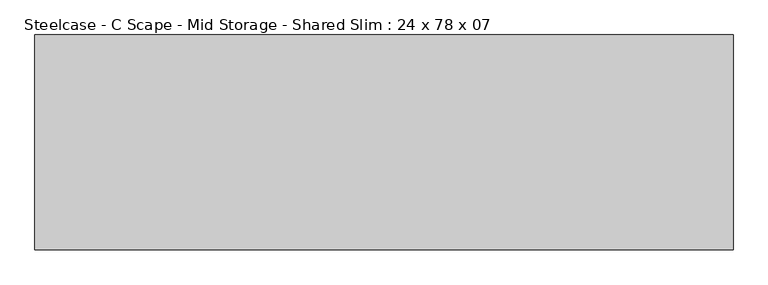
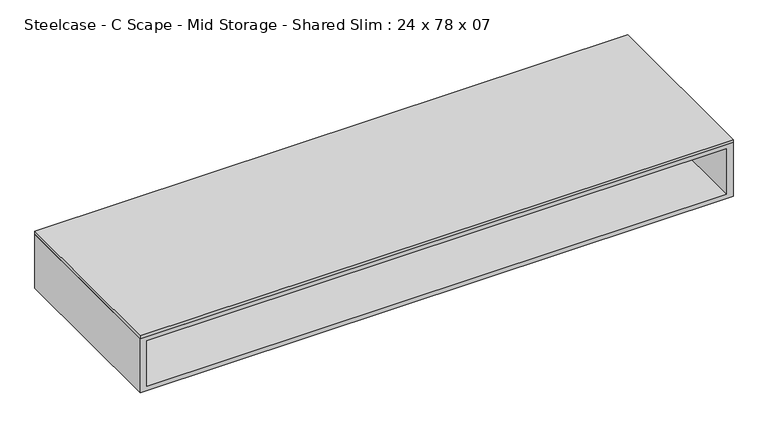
"""IFC4 building model written with IfcOpenShell, lengths in millimetres: furniture geometry, Steelcase - C Scape - Mid Storage - Shared Slim : 24 x 78 x 07."""

from ifc_helpers import new_model, si_unit, frame, origin, place, context, project, spatial, polyline, outline, extrude, source, transform, mapped, element, save


def steelcase_c_scape_mid_storage_shared_slim_24_x_78_x_07_27f1f0ae(model_context):
    return source(origin(), model_context, "Body", "SweptSolid", [
        extrude(outline(polyline([(1981.2, 304.8), (1981.2, -304.8), (0.0, -304.8), (0.0, 304.8), (1981.2, 304.8)])), frame((0.0, 0.0, 1028.7), z_axis=(0.0, 0.0, 1.0), x_axis=(1.0, 0.0, 0.0)), (0.0, 0.0, 1.0), 10.16),
        extrude(outline(polyline([(1959.102, 3.1751841), (1959.102, -3.1744283), (21.9711633, -3.1744283), (21.9711633, 3.1751841), (1959.102, 3.1751841)])), frame((0.0, 0.0, 853.4399855), z_axis=(0.0, 0.0, 1.0), x_axis=(1.0, 0.0, 0.0)), (0.0, 0.0, 1.0), 160.0200145),
        extrude(outline(polyline([(1028.7, 1981.2), (1028.7, 0.0), (838.2, 0.0), (838.2, 1981.2), (1028.7, 1981.2)]), holes=[polyline([(1013.46, 1959.102), (853.4399855, 1959.102), (853.4399855, 21.9711633), (1013.46, 21.9711633), (1013.46, 1959.102)])]), frame((0.0, -304.8, 0.0), z_axis=(0.0, 1.0, 0.0), x_axis=(0.0, 0.0, 1.0)), (0.0, 0.0, 1.0), 609.6),
    ])


if __name__ == "__main__":
    model = new_model("IFC4")
    model_context = context("Model", 3, world=origin())
    ifc_project = project(units=[si_unit("LENGTHUNIT", "METRE", prefix="MILLI")], contexts=[model_context])
    site = spatial("IfcSite", under=ifc_project)
    building = spatial("IfcBuilding", under=site)
    placement = place(None, origin())
    steelcase_c_scape_mid_storage_shared_slim_24_x_78_x_07_shape = steelcase_c_scape_mid_storage_shared_slim_24_x_78_x_07_27f1f0ae(model_context)
    element("IfcFurniture", 1, ObjectType="Steelcase - C Scape - Mid Storage - Shared Slim : 24 x 78 x 07", at=placement, inside=building, context=model_context, shape_type="MappedRepresentation", body=[
        mapped(steelcase_c_scape_mid_storage_shared_slim_24_x_78_x_07_shape, transform((0.0, 0.0, 0.0), x_axis=(1.0, 0.0, 0.0), y_axis=(0.0, 1.0, 0.0), z_axis=(0.0, 0.0, 1.0))),
    ])
    save(model, "model.ifc")
